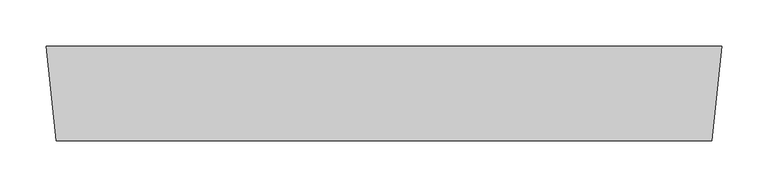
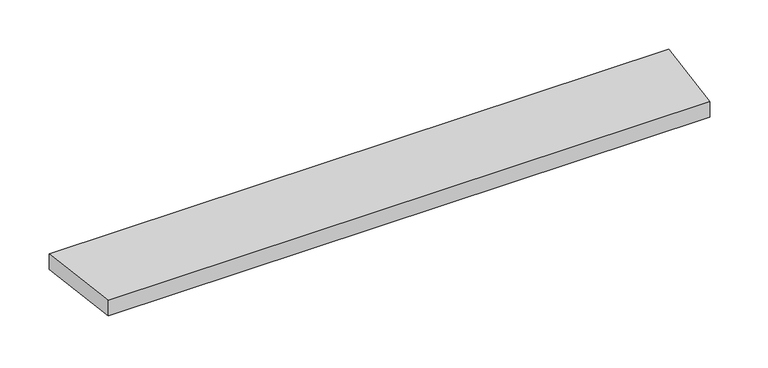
"""IFC4 building model written with IfcOpenShell, lengths in millimetres: proxy geometry, IMPRESS^TABLE 7_60x108 LOOP W CHASE-END KEEL CAP."""

from ifc_helpers import new_model, si_unit, origin, origin_with_axes, place, context, project, spatial, polyline, outline, extrude, source, transform, mapped, element, save


def generic_models_12575e35(model_context):
    return source(origin(), model_context, "Body", "SweptSolid", [
        extrude(outline(polyline([(728.2210588, 0.0), (717.5424685, -101.6), (10.6785903, -101.6), (0.0, 0.0), (728.2210588, 0.0)])), origin_with_axes(), (0.0, 0.0, 1.0), 19.05),
    ])


if __name__ == "__main__":
    model = new_model("IFC4")
    model_context = context("Model", 3, world=origin())
    ifc_project = project(units=[si_unit("LENGTHUNIT", "METRE", prefix="MILLI")], contexts=[model_context])
    site = spatial("IfcSite", under=ifc_project)
    building = spatial("IfcBuilding", under=site)
    placement = place(None, origin())
    generic_models_shape = generic_models_12575e35(model_context)
    element("IfcBuildingElementProxy", 1, Name="IMPRESS^TABLE 7_60x108 LOOP W CHASE-END KEEL CAP", ObjectType="IMPRESS^TABLE 7_60x108 LOOP W CHASE-END KEEL CAP", at=placement, inside=building, context=model_context, shape_type="MappedRepresentation", body=[
        mapped(generic_models_shape, transform((0.0, 0.0, 0.0), x_axis=(1.0, 0.0, 0.0), y_axis=(0.0, 1.0, 0.0), z_axis=(0.0, 0.0, 1.0))),
    ])
    save(model, "model.ifc")
